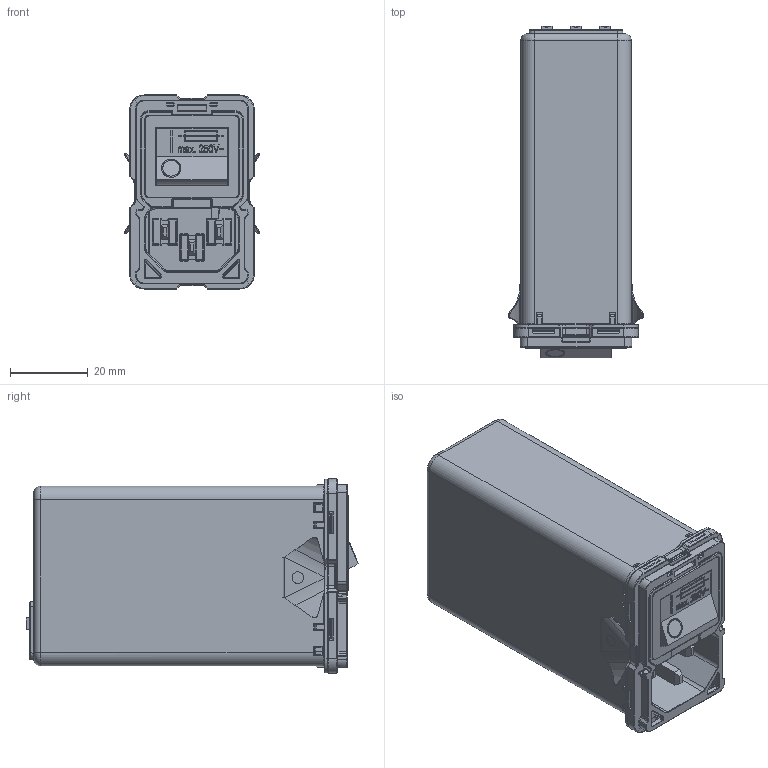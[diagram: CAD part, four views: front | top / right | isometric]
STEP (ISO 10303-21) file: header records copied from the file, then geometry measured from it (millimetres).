
FILE_DESCRIPTION((''),'2;1');
FILE_NAME('H:\02_Projects\A_Others\Z_Support\Luis\Cherry_STP\Step_Files\2 Stage\2_stage_spring_cage_horizontal_snap.stp','2012-07-26T14:54:36',('Samuel.Meier'),(''),'Autodesk Inventor 2010','Autodesk Inventor 2010','');
FILE_SCHEMA(('AUTOMOTIVE_DESIGN { 1 2 10303 214 0 1 1 1 }'));
Length unit declared in the file: millimetre
Products named in the file (1): 2_stage_spring_cage_horizontal_snap
Bounding box: 34.9 x 85.34 x 49.9 mm (x, y, z)
Surface area: 69436.2 mm2 (no closed solid volume)
Topology: 0 solids, 13 shells, 3286 faces, 8798 edges, 5458 vertices
Faces by surface type: plane 1382, cylinder 1218, bspline 476, torus 95, sphere 91, cone 24
Full cylindrical faces by diameter (mm): 1 x8, 1.1 x10, 1.2 x4, 1.4 x1, 1.5 x3, 1.7 x2, 2.7 x1, 3 x2, 3.6 x2, 4 x2, 6.5 x1, 7.2 x2, 8.2 x2
Entity records: 112277 total; most frequent: CARTESIAN_POINT 28183, ORIENTED_EDGE 17308, DIRECTION 16586, EDGE_CURVE 8654, AXIS2_PLACEMENT_3D 5739, VERTEX_POINT 5447, VECTOR 5108, LINE 5108
